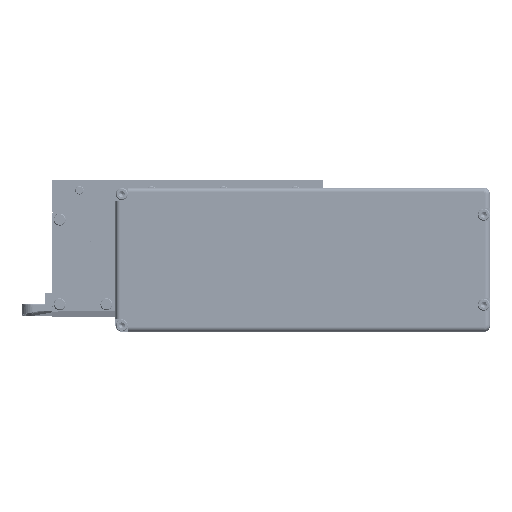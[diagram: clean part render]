
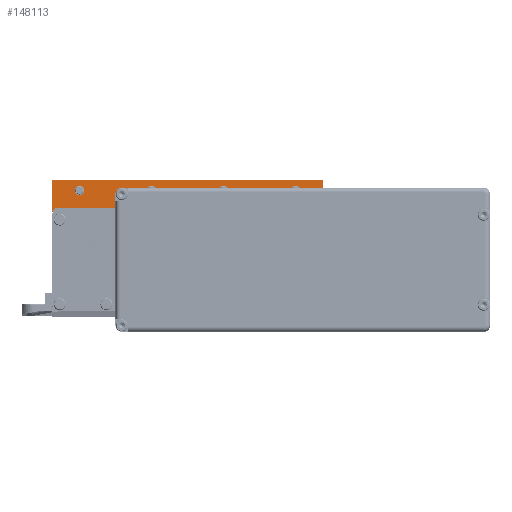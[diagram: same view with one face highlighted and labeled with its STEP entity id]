
A CAD part, top view. The second image highlights one B-rep face of the part: STEP entity #148113.
In plain terms, the highlighted planar face has unit normal (0, 0, 1).
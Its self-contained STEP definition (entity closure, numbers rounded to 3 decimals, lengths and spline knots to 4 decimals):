
#205 = LINE ( 'NONE', #54805, #81813 ) ;
#3374 = FACE_BOUND ( 'NONE', #168465, .T. ) ;
#5528 = AXIS2_PLACEMENT_3D ( 'NONE', #145806, #156589, #88598 ) ;
#6027 = CARTESIAN_POINT ( 'NONE',  ( 3.5433, 2.439, 5.9843 ) ) ;
#9216 = ORIENTED_EDGE ( 'NONE', *, *, #155445, .F. ) ;
#9882 = ORIENTED_EDGE ( 'NONE', *, *, #99347, .T. ) ;
#20442 = AXIS2_PLACEMENT_3D ( 'NONE', #115171, #89197, #47170 ) ;
#23564 = CARTESIAN_POINT ( 'NONE',  ( -4.4291, 1.5846, 5.9843 ) ) ;
#31089 = FACE_BOUND ( 'NONE', #116751, .T. ) ;
#33777 = EDGE_CURVE ( 'NONE', #116910, #116910, #90955, .T. ) ;
#34647 = EDGE_CURVE ( 'NONE', #61493, #61493, #139876, .T. ) ;
#35858 = CARTESIAN_POINT ( 'NONE',  ( 4.4291, 1.5846, 5.9843 ) ) ;
#38986 = ORIENTED_EDGE ( 'NONE', *, *, #33777, .F. ) ;
#44522 = FACE_BOUND ( 'NONE', #152528, .T. ) ;
#46035 = EDGE_CURVE ( 'NONE', #48508, #48508, #82683, .T. ) ;
#47170 = DIRECTION ( 'NONE',  ( 0., -1., 0. ) ) ;
#48508 = VERTEX_POINT ( 'NONE', #172006 ) ;
#51271 = AXIS2_PLACEMENT_3D ( 'NONE', #144161, #75328, #157587 ) ;
#52566 = VECTOR ( 'NONE', #129802, 39.3701 ) ;
#54282 = CARTESIAN_POINT ( 'NONE',  ( 4.4291, 1.5846, 5.9843 ) ) ;
#54805 = CARTESIAN_POINT ( 'NONE',  ( 4.4291, 2.6181, 5.9843 ) ) ;
#59349 = VECTOR ( 'NONE', #173170, 39.3701 ) ;
#60031 = LINE ( 'NONE', #35858, #52566 ) ;
#61493 = VERTEX_POINT ( 'NONE', #116040 ) ;
#64022 = CARTESIAN_POINT ( 'NONE',  ( 4.4291, 2.6181, 5.9843 ) ) ;
#64408 = VERTEX_POINT ( 'NONE', #81753 ) ;
#65623 = DIRECTION ( 'NONE',  ( 0., 1., 0. ) ) ;
#72289 = PLANE ( 'NONE',  #20442 ) ;
#75328 = DIRECTION ( 'NONE',  ( 0., 0., 1. ) ) ;
#77147 = CARTESIAN_POINT ( 'NONE',  ( -4.4291, 2.6181, 5.9843 ) ) ;
#77791 = CARTESIAN_POINT ( 'NONE',  ( 3.5433, 2.2835, 5.9843 ) ) ;
#81753 = CARTESIAN_POINT ( 'NONE',  ( 4.4291, 2.6181, 5.9843 ) ) ;
#81813 = VECTOR ( 'NONE', #95926, 39.3701 ) ;
#82612 = ORIENTED_EDGE ( 'NONE', *, *, #131846, .T. ) ;
#82683 = CIRCLE ( 'NONE', #51271, 0.1555 ) ;
#88598 = DIRECTION ( 'NONE',  ( 0., 1., 0. ) ) ;
#89197 = DIRECTION ( 'NONE',  ( 0., 0., -1. ) ) ;
#90805 = ORIENTED_EDGE ( 'NONE', *, *, #159639, .F. ) ;
#90955 = CIRCLE ( 'NONE', #171093, 0.1555 ) ;
#95926 = DIRECTION ( 'NONE',  ( 1., 0., 0. ) ) ;
#98323 = ORIENTED_EDGE ( 'NONE', *, *, #141771, .F. ) ;
#99090 = FACE_OUTER_BOUND ( 'NONE', #117054, .T. ) ;
#99347 = EDGE_CURVE ( 'NONE', #167736, #160823, #160818, .T. ) ;
#113875 = EDGE_LOOP ( 'NONE', ( #98323 ) ) ;
#115171 = CARTESIAN_POINT ( 'NONE',  ( 4.4291, 2.6181, 5.9843 ) ) ;
#116040 = CARTESIAN_POINT ( 'NONE',  ( -1.1811, 2.439, 5.9843 ) ) ;
#116751 = EDGE_LOOP ( 'NONE', ( #171802 ) ) ;
#116910 = VERTEX_POINT ( 'NONE', #6027 ) ;
#116983 = DIRECTION ( 'NONE',  ( 0., -1., 0. ) ) ;
#117054 = EDGE_LOOP ( 'NONE', ( #82612, #9216, #90805, #9882 ) ) ;
#123435 = ORIENTED_EDGE ( 'NONE', *, *, #46035, .F. ) ;
#124404 = VERTEX_POINT ( 'NONE', #54282 ) ;
#126224 = CIRCLE ( 'NONE', #166266, 0.1555 ) ;
#127687 = FACE_BOUND ( 'NONE', #113875, .T. ) ;
#129802 = DIRECTION ( 'NONE',  ( 1., 0., 0. ) ) ;
#131846 = EDGE_CURVE ( 'NONE', #160823, #124404, #60031, .T. ) ;
#134480 = DIRECTION ( 'NONE',  ( 0., 0., 1. ) ) ;
#137123 = CARTESIAN_POINT ( 'NONE',  ( -3.5433, 2.2835, 5.9843 ) ) ;
#137418 = DIRECTION ( 'NONE',  ( 0., 1., 0. ) ) ;
#139876 = CIRCLE ( 'NONE', #5528, 0.1555 ) ;
#141771 = EDGE_CURVE ( 'NONE', #143438, #143438, #126224, .T. ) ;
#143438 = VERTEX_POINT ( 'NONE', #157738 ) ;
#144161 = CARTESIAN_POINT ( 'NONE',  ( 1.1811, 2.2835, 5.9843 ) ) ;
#144719 = CARTESIAN_POINT ( 'NONE',  ( -4.4291, 2.6181, 5.9843 ) ) ;
#145394 = LINE ( 'NONE', #64022, #59349 ) ;
#145806 = CARTESIAN_POINT ( 'NONE',  ( -1.1811, 2.2835, 5.9843 ) ) ;
#148113 = ADVANCED_FACE ( 'NONE', ( #127687, #44522, #3374, #31089, #99090 ), #72289, .F. ) ;
#152528 = EDGE_LOOP ( 'NONE', ( #38986 ) ) ;
#155445 = EDGE_CURVE ( 'NONE', #64408, #124404, #145394, .T. ) ;
#156589 = DIRECTION ( 'NONE',  ( 0., 0., 1. ) ) ;
#157587 = DIRECTION ( 'NONE',  ( 0., 1., 0. ) ) ;
#157738 = CARTESIAN_POINT ( 'NONE',  ( -3.5433, 2.439, 5.9843 ) ) ;
#159639 = EDGE_CURVE ( 'NONE', #167736, #64408, #205, .T. ) ;
#160818 = LINE ( 'NONE', #144719, #161724 ) ;
#160823 = VERTEX_POINT ( 'NONE', #23564 ) ;
#161724 = VECTOR ( 'NONE', #116983, 39.3701 ) ;
#166266 = AXIS2_PLACEMENT_3D ( 'NONE', #137123, #134480, #65623 ) ;
#167736 = VERTEX_POINT ( 'NONE', #77147 ) ;
#168465 = EDGE_LOOP ( 'NONE', ( #123435 ) ) ;
#171093 = AXIS2_PLACEMENT_3D ( 'NONE', #77791, #174400, #137418 ) ;
#171802 = ORIENTED_EDGE ( 'NONE', *, *, #34647, .F. ) ;
#172006 = CARTESIAN_POINT ( 'NONE',  ( 1.1811, 2.439, 5.9843 ) ) ;
#173170 = DIRECTION ( 'NONE',  ( 0., -1., 0. ) ) ;
#174400 = DIRECTION ( 'NONE',  ( 0., 0., 1. ) ) ;
